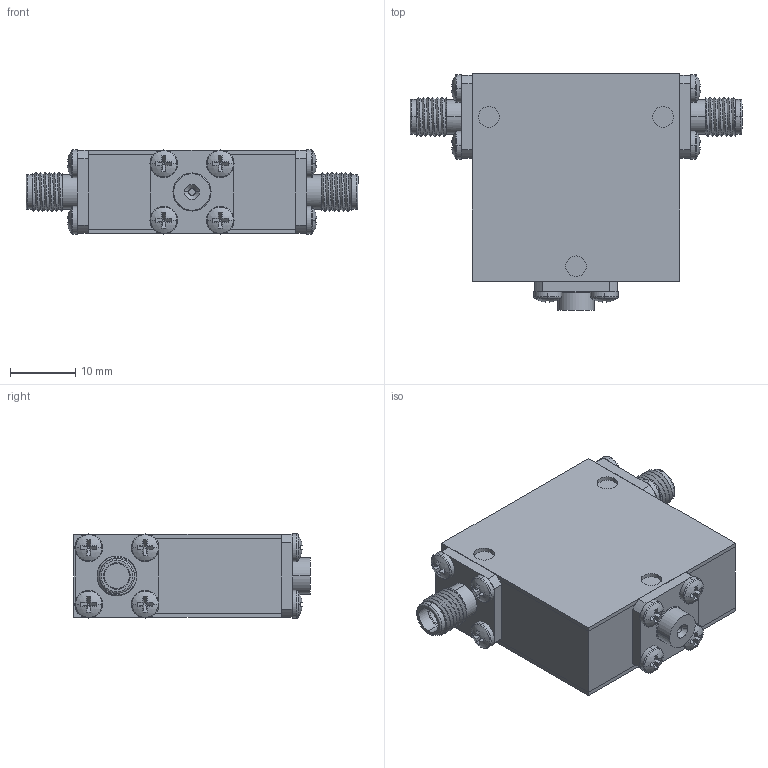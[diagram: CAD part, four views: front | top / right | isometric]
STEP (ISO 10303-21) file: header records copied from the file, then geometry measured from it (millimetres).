
FILE_DESCRIPTION (( 'STEP AP214' ), '1' );
FILE_NAME ('D3I3090 1.25x1.25x0.5 FF.step', '2021-12-01T20:56:12', ( '' ), ( '' ), 'SwSTEP 2.0', 'SolidWorks 2016', '' );
FILE_SCHEMA (( 'AUTOMOTIVE_DESIGN' ));
Length unit declared in the file: inch
Products named in the file (6): Delta SMA-Female 0.500 flange Threaded; D3I3090 1.25x1.25x0.5 FF; D3I3090 1.25x1.225x0.45; pan cross head_ai_CR-PHMS 0.086-56x0.125x0.125-N; 030013-1A Same Base thickness as connectors; D3I3090 1.25x1.25x0.5
Assembly tree (17 placements, depth 2):
  D3I3090 1.25x1.25x0.5 FF
    D3I3090 1.25x1.225x0.45
    D3I3090 1.25x1.25x0.5
    Delta SMA-Female 0.500 flange Threaded  x2
    030013-1A Same Base thickness as connectors
    pan cross head_ai_CR-PHMS 0.086-56x0.125x0.125-N  x12
Bounding box: 50.8 x 36.2 x 12.88 mm (x, y, z)
Volume: 13962 mm3; surface area: 10915.7 mm2
Topology: 17 solids, 17 shells, 414 faces, 942 edges, 582 vertices
Faces by surface type: plane 228, cylinder 122, torus 30, sphere 24, bspline 6, cone 4
Entity records: 4765 total; most frequent: CARTESIAN_POINT 1369, DIRECTION 717, ORIENTED_EDGE 594, EDGE_CURVE 297, AXIS2_PLACEMENT_3D 289, VERTEX_POINT 191, EDGE_LOOP 160, CIRCLE 150
